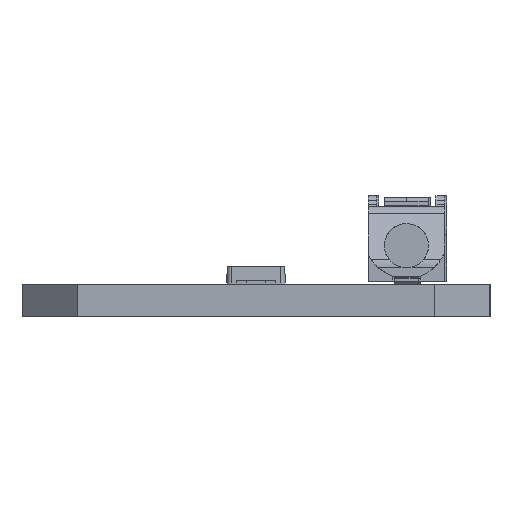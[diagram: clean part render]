
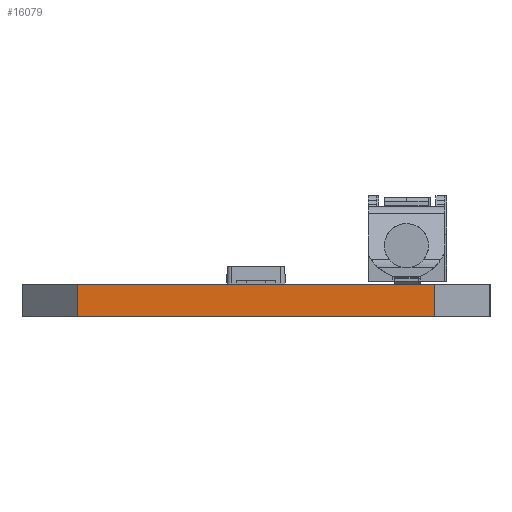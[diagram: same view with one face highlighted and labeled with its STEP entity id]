
A CAD part, left-side view. The second image highlights one B-rep face of the part: STEP entity #16079.
In plain terms, the highlighted planar face has unit normal (-1, 0, 0).
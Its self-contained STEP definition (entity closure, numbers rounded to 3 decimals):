
#161=DIRECTION('',(0.,-1.,0.));
#162=VECTOR('',#161,18.2);
#163=CARTESIAN_POINT('',(-69.9,9.1,1.65));
#164=LINE('',#163,#162);
#1670=DIRECTION('',(0.,-1.,0.));
#1671=VECTOR('',#1670,18.2);
#1672=CARTESIAN_POINT('',(-69.9,9.1,0.));
#1673=LINE('',#1672,#1671);
#1798=DIRECTION('',(0.,0.,-1.));
#1799=VECTOR('',#1798,1.65);
#1800=CARTESIAN_POINT('',(-69.9,-9.1,1.65));
#1801=LINE('',#1800,#1799);
#1805=DIRECTION('',(0.,0.,-1.));
#1806=VECTOR('',#1805,1.65);
#1807=CARTESIAN_POINT('',(-69.9,9.1,1.65));
#1808=LINE('',#1807,#1806);
#12763=CARTESIAN_POINT('',(-69.9,-9.1,1.65));
#12764=CARTESIAN_POINT('',(-69.9,-9.1,0.));
#12765=VERTEX_POINT('',#12763);
#12766=VERTEX_POINT('',#12764);
#12767=CARTESIAN_POINT('',(-69.9,9.1,1.65));
#12768=CARTESIAN_POINT('',(-69.9,9.1,0.));
#12769=VERTEX_POINT('',#12767);
#12770=VERTEX_POINT('',#12768);
#16067=CARTESIAN_POINT('',(-69.9,0.,0.825));
#16068=DIRECTION('',(1.,0.,0.));
#16069=DIRECTION('',(0.,0.,1.));
#16070=AXIS2_PLACEMENT_3D('',#16067,#16068,#16069);
#16071=PLANE('',#16070);
#16073=ORIENTED_EDGE('',*,*,#16072,.F.);
#16074=ORIENTED_EDGE('',*,*,#15085,.T.);
#16075=ORIENTED_EDGE('',*,*,#16052,.T.);
#16076=ORIENTED_EDGE('',*,*,#15874,.F.);
#16077=EDGE_LOOP('',(#16073,#16074,#16075,#16076));
#16078=FACE_OUTER_BOUND('',#16077,.F.);
#15085=EDGE_CURVE('',#12769,#12765,#164,.T.);
#15874=EDGE_CURVE('',#12770,#12766,#1673,.T.);
#16052=EDGE_CURVE('',#12765,#12766,#1801,.T.);
#16072=EDGE_CURVE('',#12769,#12770,#1808,.T.);
#16079=ADVANCED_FACE('',(#16078),#16071,.F.);
